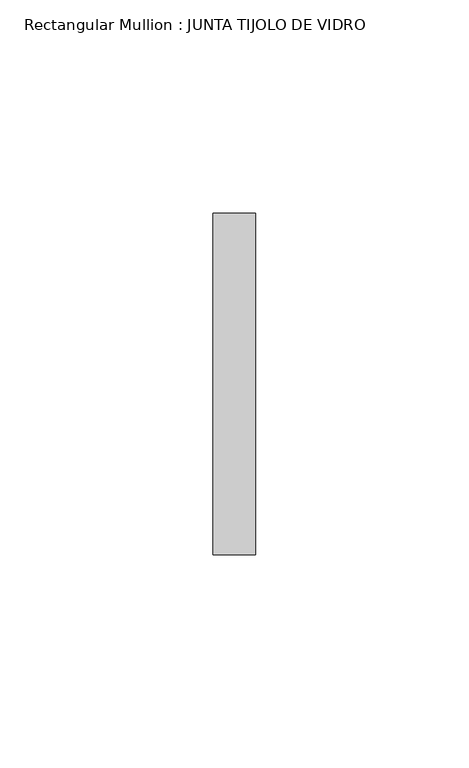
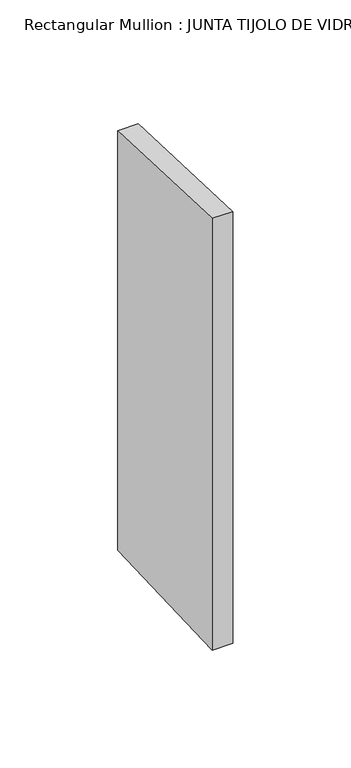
"""IFC4 building model written with IfcOpenShell, lengths in millimetres: member geometry, Rectangular Mullion : JUNTA TIJOLO DE VIDRO."""

from ifc_helpers import new_model, si_unit, frame, origin, place, context, project, spatial, polyline, outline, extrude, source, transform, mapped, element, save


def rectangular_mullion_junta_tijolo_de_vidro_4ec96616(model_context):
    return source(origin(), model_context, "Body", "SweptSolid", [
        extrude(outline(polyline([(-40.0, 1.5683228), (40.0, -1.5683228), (40.0, -218.7561819), (-40.0, -221.8575793), (-40.0, 1.5683228)])), frame((-10.0, 0.0, 0.0), z_axis=(1.0, 0.0, 0.0), x_axis=(0.0, 1.0, 0.0)), (0.0, 0.0, 1.0), 10.0),
    ])


if __name__ == "__main__":
    model = new_model("IFC4")
    model_context = context("Model", 3, world=origin())
    ifc_project = project(units=[si_unit("LENGTHUNIT", "METRE", prefix="MILLI")], contexts=[model_context])
    site = spatial("IfcSite", under=ifc_project)
    building = spatial("IfcBuilding", under=site)
    placement = place(None, origin())
    rectangular_mullion_junta_tijolo_de_vidro_shape = rectangular_mullion_junta_tijolo_de_vidro_4ec96616(model_context)
    element("IfcMember", 1, ObjectType="Rectangular Mullion : JUNTA TIJOLO DE VIDRO", at=placement, inside=building, context=model_context, shape_type="MappedRepresentation", body=[
        mapped(rectangular_mullion_junta_tijolo_de_vidro_shape, transform((0.0, 0.0, 0.0), x_axis=(1.0, 0.0, 0.0), y_axis=(0.0, 1.0, 0.0), z_axis=(0.0, 0.0, 1.0))),
    ])
    save(model, "model.ifc")
